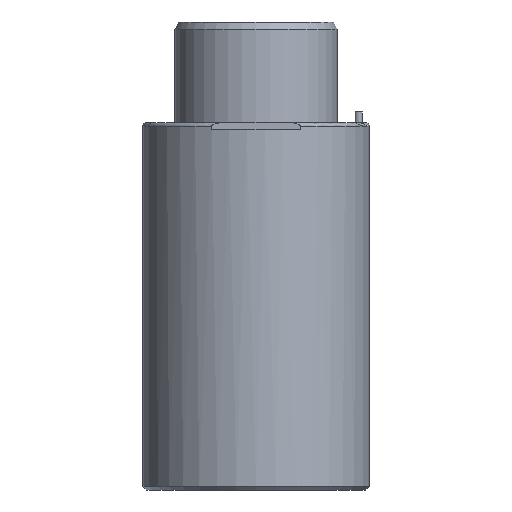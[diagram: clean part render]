
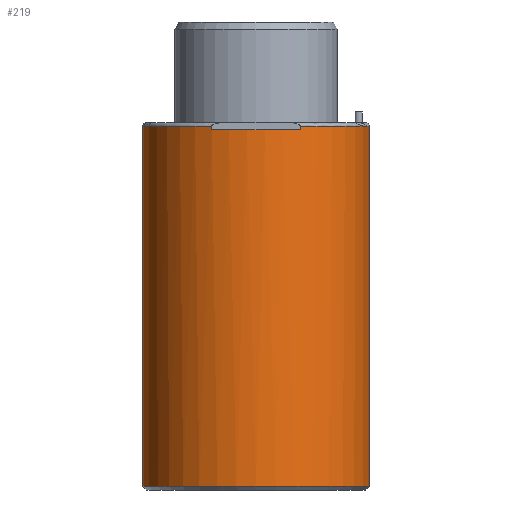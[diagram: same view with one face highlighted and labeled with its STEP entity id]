
A CAD part, left-side view. The second image highlights one B-rep face of the part: STEP entity #219.
In plain terms, the highlighted cylindrical face has radius 31.5 mm (diameter 63 mm), a partial arc.
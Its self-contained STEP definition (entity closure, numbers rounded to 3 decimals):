
#166=CYLINDRICAL_SURFACE('',#1095,31.5);
#219=ADVANCED_FACE('',(#285),#166,.T.);
#285=FACE_OUTER_BOUND('',#354,.T.);
#354=EDGE_LOOP('',(#639,#640,#641,#642,#643,#644,#645,#646));
#371=CIRCLE('',#987,31.5);
#429=CIRCLE('',#1091,31.5);
#430=CIRCLE('',#1093,31.5);
#431=CIRCLE('',#1094,31.5);
#639=ORIENTED_EDGE('',*,*,#867,.F.);
#640=ORIENTED_EDGE('',*,*,#868,.F.);
#641=ORIENTED_EDGE('',*,*,#869,.F.);
#642=ORIENTED_EDGE('',*,*,#866,.T.);
#643=ORIENTED_EDGE('',*,*,#863,.T.);
#644=ORIENTED_EDGE('',*,*,#769,.F.);
#645=ORIENTED_EDGE('',*,*,#862,.F.);
#646=ORIENTED_EDGE('',*,*,#870,.T.);
#683=VERTEX_POINT('',#1433);
#686=VERTEX_POINT('',#1438);
#741=VERTEX_POINT('',#1629);
#746=VERTEX_POINT('',#1647);
#750=VERTEX_POINT('',#1667);
#751=VERTEX_POINT('',#1672);
#752=VERTEX_POINT('',#1673);
#753=VERTEX_POINT('',#1675);
#769=EDGE_CURVE('',#683,#686,#371,.T.);
#862=EDGE_CURVE('',#746,#683,#917,.T.);
#863=EDGE_CURVE('',#741,#686,#918,.T.);
#866=EDGE_CURVE('',#750,#741,#429,.T.);
#867=EDGE_CURVE('',#751,#752,#919,.T.);
#868=EDGE_CURVE('',#753,#751,#430,.T.);
#869=EDGE_CURVE('',#750,#753,#920,.T.);
#870=EDGE_CURVE('',#746,#752,#431,.T.);
#917=LINE('',#1655,#965);
#918=LINE('',#1656,#966);
#919=LINE('',#1671,#967);
#920=LINE('',#1676,#968);
#965=VECTOR('',#1375,1.);
#966=VECTOR('',#1376,1.);
#967=VECTOR('',#1385,1.);
#968=VECTOR('',#1388,1.);
#987=AXIS2_PLACEMENT_3D('',#1441,#1137,#1138);
#1091=AXIS2_PLACEMENT_3D('',#1669,#1381,#1382);
#1093=AXIS2_PLACEMENT_3D('',#1674,#1386,#1387);
#1094=AXIS2_PLACEMENT_3D('',#1677,#1389,#1390);
#1095=AXIS2_PLACEMENT_3D('',#1678,#1391,#1392);
#1137=DIRECTION('',(0.,0.,-1.));
#1138=DIRECTION('',(1.,0.,0.));
#1375=DIRECTION('',(0.,0.,-1.));
#1376=DIRECTION('',(0.,0.,-1.));
#1381=DIRECTION('',(0.,0.,-1.));
#1382=DIRECTION('',(1.,0.,0.));
#1385=DIRECTION('',(0.,0.,1.));
#1386=DIRECTION('',(0.,0.,1.));
#1387=DIRECTION('',(-0.845,0.535,0.));
#1388=DIRECTION('',(0.,0.,-1.));
#1389=DIRECTION('',(0.,0.,-1.));
#1390=DIRECTION('',(1.,0.,0.));
#1391=DIRECTION('',(0.,0.,-1.));
#1392=DIRECTION('',(-1.,0.,0.));
#1433=CARTESIAN_POINT('',(0.,-31.5,1.));
#1438=CARTESIAN_POINT('',(0.,31.5,1.));
#1441=CARTESIAN_POINT('',(0.,0.,1.));
#1629=CARTESIAN_POINT('',(0.,31.5,101.));
#1647=CARTESIAN_POINT('',(0.,-31.5,101.));
#1655=CARTESIAN_POINT('',(0.,-31.5,1.));
#1656=CARTESIAN_POINT('',(0.,31.5,1.));
#1667=CARTESIAN_POINT('',(-29.,12.298,101.));
#1669=CARTESIAN_POINT('',(0.,0.,101.));
#1671=CARTESIAN_POINT('',(-29.,-12.298,102.02));
#1672=CARTESIAN_POINT('',(-29.,-12.298,100.));
#1673=CARTESIAN_POINT('',(-29.,-12.298,101.));
#1674=CARTESIAN_POINT('',(0.,0.,100.));
#1675=CARTESIAN_POINT('',(-29.,12.298,100.));
#1676=CARTESIAN_POINT('',(-29.,12.298,102.02));
#1677=CARTESIAN_POINT('',(0.,0.,101.));
#1678=CARTESIAN_POINT('',(0.,0.,101.));
